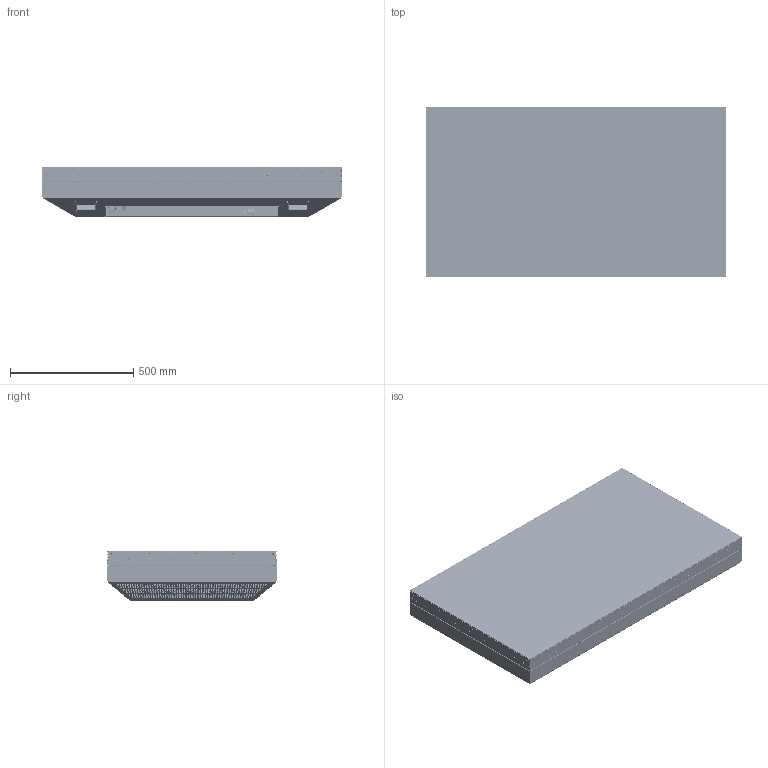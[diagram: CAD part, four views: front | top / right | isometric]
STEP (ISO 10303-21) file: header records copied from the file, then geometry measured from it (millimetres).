
FILE_DESCRIPTION((''),'2;1');
FILE_NAME('ASSEMBLY_MT553_COVER__SW0001','2012-11-07T',('Valdemar'),(''),'PRO/ENGINEER BY PARAMETRIC TECHNOLOGY CORPORATION, 2010280','PRO/ENGINEER BY PARAMETRIC TECHNOLOGY CORPORATION, 2010280','');
FILE_SCHEMA(('CONFIG_CONTROL_DESIGN'));
Products named in the file (1): ASSEMBLY_MT553_COVER__SW0001
Bounding box: 1215.3 x 686.1 x 202.22 mm (x, y, z)
Surface area: 6299313.2 mm2 (no closed solid volume)
Topology: 0 solids, 853 shells, 8596 faces, 42801 edges, 33874 vertices
Faces by surface type: plane 3702, cylinder 3198, torus 1035, bspline 305, cone 258, sphere 89, extrusion 9
Entity records: 491307 total; most frequent: CARTESIAN_POINT 145943, DIRECTION 74237, ORIENTED_EDGE 63045, EDGE_CURVE 42748, VERTEX_POINT 33874, AXIS2_PLACEMENT_3D 26248, VECTOR 21741, LINE 21732
